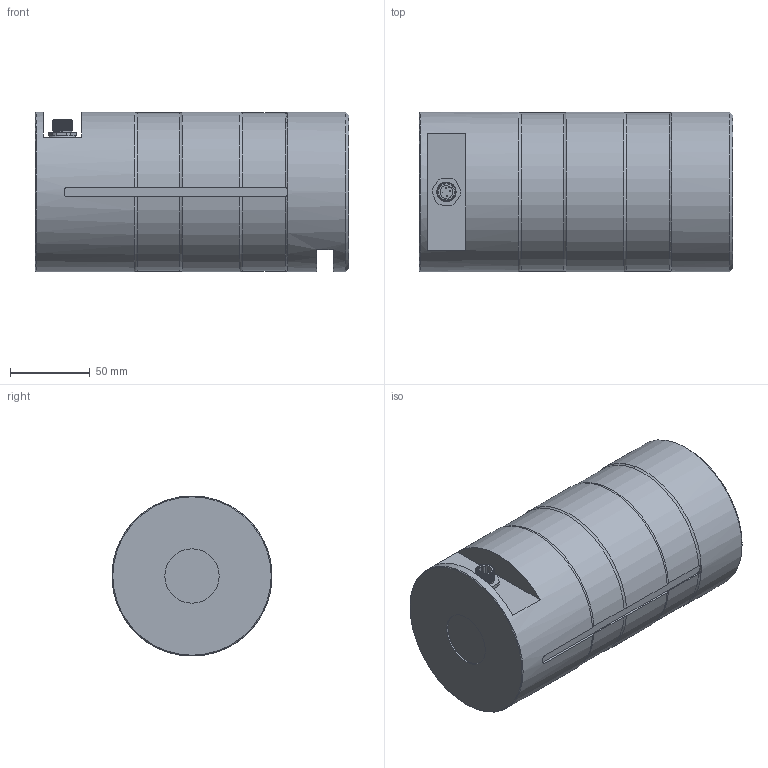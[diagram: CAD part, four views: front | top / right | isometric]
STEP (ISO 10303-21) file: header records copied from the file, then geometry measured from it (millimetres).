
FILE_DESCRIPTION(/* description */ ('Alibre Inc.'),/* implementation_level */ '2;1');
FILE_NAME(/* name */ 'export0',/* time_stamp */ '2017-06-13T13:26:51+02:00',/* author */ (''),/* organization */ (''),/* preprocessor_version */ 'ST-DEVELOPER v14',/* originating_system */ 'Alibre',/* authorisation */ '');
FILE_SCHEMA (('CONFIG_CONTROL_DESIGN'));
Length unit declared in the file: centimetre
Products named in the file (6): ID_1; ID_2; ID_3; ID_4
Bounding box: 196 x 100 x 100 mm (x, y, z)
Volume: 1499062.7 mm3; surface area: 84703.1 mm2
Topology: 8 solids, 8 shells, 151 faces, 339 edges, 211 vertices
Faces by surface type: plane 61, cylinder 52, bspline 23, torus 9, cone 6
Full cylindrical faces by diameter (mm): 0.5 x8, 8 x2, 10 x4, 11.5 x1, 13 x1, 14.376 x1, 34 x1, 100 x2
Entity records: 14455 total; most frequent: CARTESIAN_POINT 11191, ORIENTED_EDGE 606, DIRECTION 389, EDGE_CURVE 298, VERTEX_POINT 199, FACE_BOUND 194, EDGE_LOOP 193, AXIS2_PLACEMENT_3D 174
